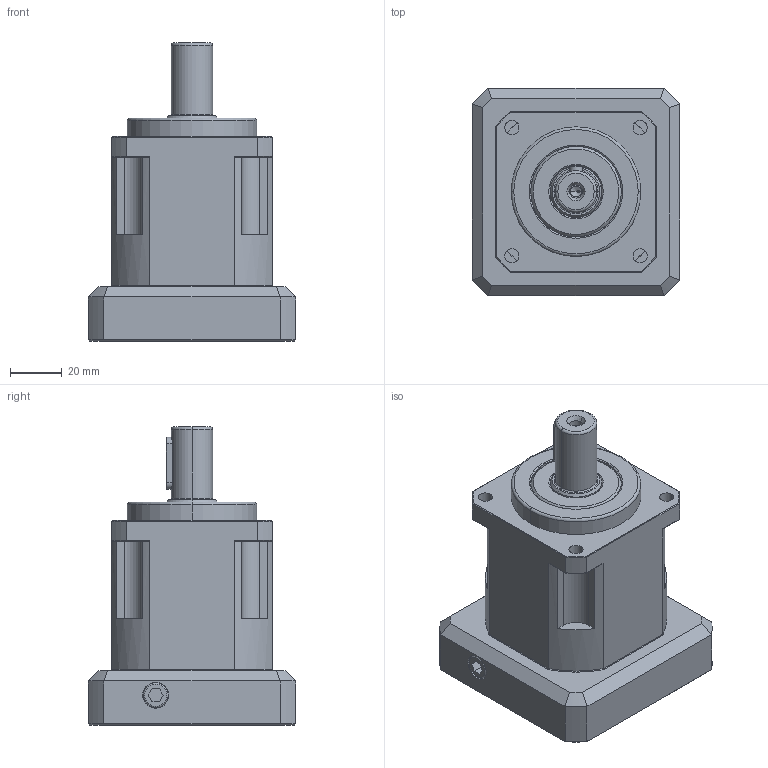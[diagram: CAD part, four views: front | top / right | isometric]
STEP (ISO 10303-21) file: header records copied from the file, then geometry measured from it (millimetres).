
FILE_DESCRIPTION (( 'STEP AP203' ), '1' );
FILE_NAME ('SB62-1-70M6.step', '2021-11-08T06:19:13', ( '' ), ( '' ), 'SwSTEP 2.0', 'SolidWorks 2020', '' );
FILE_SCHEMA (( 'CONFIG_CONTROL_DESIGN' ));
Length unit declared in the file: millimetre
Products named in the file (1): SB62-1-70M6
Bounding box: 80 x 80 x 115 mm (x, y, z)
Volume: 271239 mm3; surface area: 58684.8 mm2
Topology: 2 solids, 15 shells, 656 faces, 1580 edges, 960 vertices
Faces by surface type: plane 283, cylinder 183, cone 157, torus 31, bspline 2
Entity records: 19463 total; most frequent: CARTESIAN_POINT 3909, DIRECTION 3438, ORIENTED_EDGE 3092, EDGE_CURVE 1546, AXIS2_PLACEMENT_3D 1345, VERTEX_POINT 960, VECTOR 748, LINE 748
